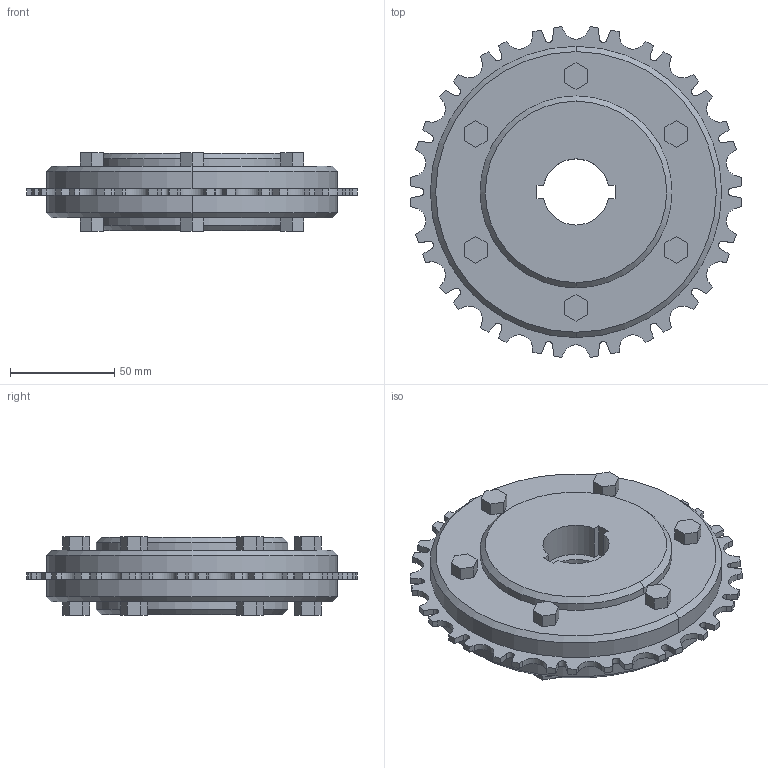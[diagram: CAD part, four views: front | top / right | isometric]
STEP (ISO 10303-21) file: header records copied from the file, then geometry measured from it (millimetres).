
FILE_DESCRIPTION((''),'2;1');
FILE_NAME('S900_SPL_METAL_61_ROUND_ASM','2008-12-12T',('jmumphre'),(''),'PRO/ENGINEER BY PARAMETRIC TECHNOLOGY CORPORATION, 2008150','PRO/ENGINEER BY PARAMETRIC TECHNOLOGY CORPORATION, 2008150','');
FILE_SCHEMA(('CONFIG_CONTROL_DESIGN'));
Length unit declared in the file: inch
Products named in the file (5): S900_TP_METAL_61X267_SQ_AF1; JOINING_PLATE_6_ROUND_AF4; JOINING_PLATE_6_ROUND_AF5; BOLTS_N_NUTS_4-376X0-980_AF2; S900_SPL_METAL_61_ROUND_ASM
Assembly tree (4 placements, depth 2):
  S900_SPL_METAL_61_ROUND_ASM
    S900_TP_METAL_61X267_SQ_AF1
    JOINING_PLATE_6_ROUND_AF4
    JOINING_PLATE_6_ROUND_AF5
    BOLTS_N_NUTS_4-376X0-980_AF2
Bounding box: 158.64 x 158.68 x 37.59 mm (x, y, z)
Volume: 432800.8 mm3; surface area: 113190 mm2
Topology: 9 solids, 9 shells, 332 faces, 892 edges, 592 vertices
Faces by surface type: plane 228, cylinder 96, cone 8
Entity records: 10565 total; most frequent: CARTESIAN_POINT 1825, ORIENTED_EDGE 1784, DIRECTION 1774, EDGE_CURVE 892, VECTOR 692, LINE 692, VERTEX_POINT 592, AXIS2_PLACEMENT_3D 541
